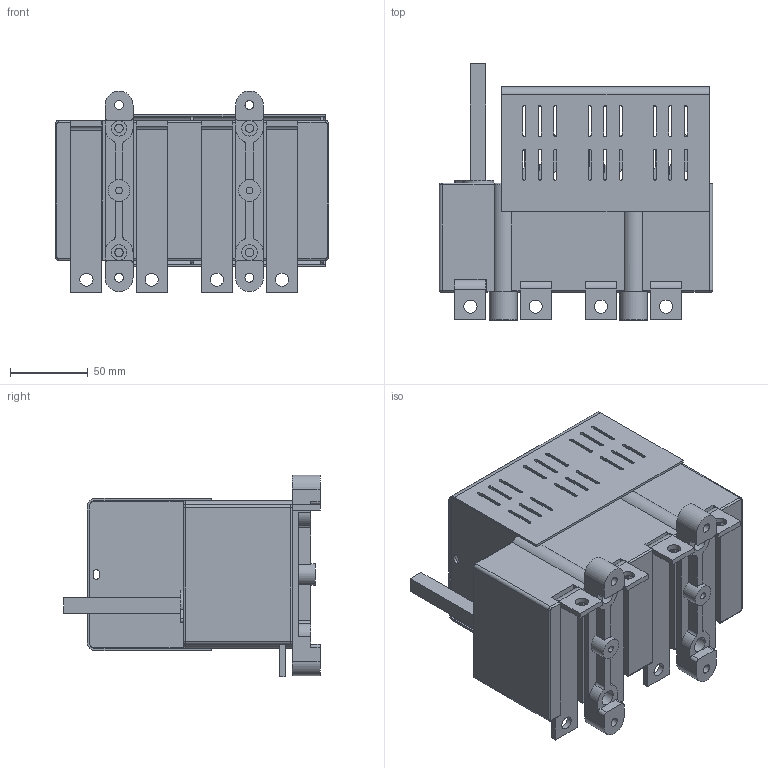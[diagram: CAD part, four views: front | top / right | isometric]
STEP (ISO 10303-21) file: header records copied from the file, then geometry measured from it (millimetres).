
FILE_DESCRIPTION(/* description */ (''),/* implementation_level */ '2;1');
FILE_NAME(/* name */ 'RAB 00 P3 NA.stp',/* time_stamp */ '2021-08-19T11:11:27+02:00',/* author */ (''),/* organization */ (''),/* preprocessor_version */ 'ST-DEVELOPER v18.1',/* originating_system */ 'SIEMENS PLM Software NX 1965',/* authorisation */ '');
FILE_SCHEMA (('AUTOMOTIVE_DESIGN { 1 0 10303 214 3 1 1 1 }'));
Length unit declared in the file: millimetre
Products named in the file (1): RAB 00 P3 NA_stp
Bounding box: 176 x 165 x 130 mm (x, y, z)
Volume: 1238808.5 mm3; surface area: 221858.8 mm2
Topology: 1 solids, 1 shells, 860 faces, 2423 edges, 1586 vertices
Faces by surface type: plane 553, cylinder 299, torus 4, bspline 4
Full cylindrical faces by diameter (mm): 2.7 x4, 4.3 x2, 5 x6, 5.3 x4, 5.8 x4, 8.5 x8, 10 x8, 14 x2
Entity records: 27619 total; most frequent: CARTESIAN_POINT 4914, ORIENTED_EDGE 4710, DIRECTION 4657, EDGE_CURVE 2355, LINE 1731, VECTOR 1731, VERTEX_POINT 1556, AXIS2_PLACEMENT_3D 1463
